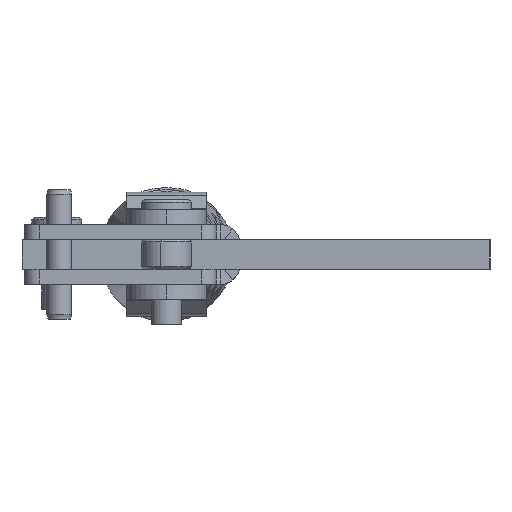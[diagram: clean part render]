
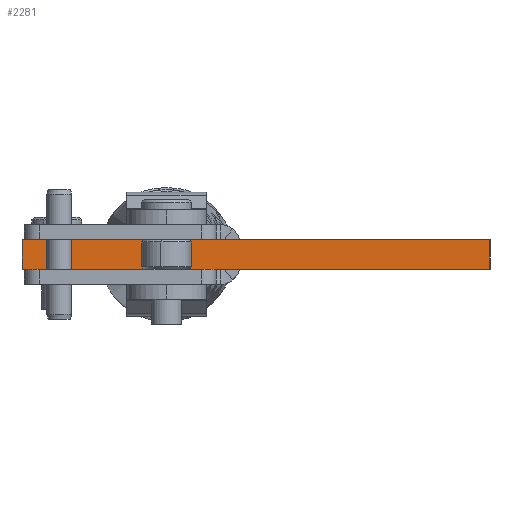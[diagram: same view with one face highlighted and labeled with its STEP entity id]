
A CAD part, front view. The second image highlights one B-rep face of the part: STEP entity #2281.
In plain terms, the highlighted planar face has unit normal (0, -1, 0).
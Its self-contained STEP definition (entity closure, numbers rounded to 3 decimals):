
#1516 = CARTESIAN_POINT ( 'NONE',  ( -7., -7., 6. ) ) ;
#1964 = CARTESIAN_POINT ( 'NONE',  ( 87., -7., 6. ) ) ;
#2239 = VECTOR ( 'NONE', #19784, 1000. ) ;
#2281 = ADVANCED_FACE ( 'Face2', ( #14602 ), #4056, .F. ) ;
#2576 = AXIS2_PLACEMENT_3D ( 'NONE', #1964, #10438, #8904 ) ;
#2858 = CARTESIAN_POINT ( 'NONE',  ( 87., -7., 6. ) ) ;
#3246 = ORIENTED_EDGE ( 'NONE', *, *, #14189, .F. ) ;
#4056 = PLANE ( 'NONE',  #2576 ) ;
#4656 = VERTEX_POINT ( 'NONE', #14997 ) ;
#4822 = EDGE_CURVE ( 'NONE', #9735, #4656, #5942, .T. ) ;
#4827 = CARTESIAN_POINT ( 'NONE',  ( 87., -7., 6. ) ) ;
#5942 = LINE ( 'NONE', #1516, #6385 ) ;
#6073 = ORIENTED_EDGE ( 'NONE', *, *, #9255, .F. ) ;
#6385 = VECTOR ( 'NONE', #14554, 1000. ) ;
#7061 = VECTOR ( 'NONE', #20479, 1000. ) ;
#8101 = EDGE_LOOP ( 'NONE', ( #12827, #6073, #3246, #18162 ) ) ;
#8904 = DIRECTION ( 'NONE',  ( 0., 0., 1. ) ) ;
#9255 = EDGE_CURVE ( 'NONE', #23677, #17725, #21678, .T. ) ;
#9735 = VERTEX_POINT ( 'NONE', #20506 ) ;
#10438 = DIRECTION ( 'NONE',  ( 0., 1., 0. ) ) ;
#11483 = EDGE_CURVE ( 'NONE', #4656, #17725, #20752, .T. ) ;
#11873 = LINE ( 'NONE', #2858, #2239 ) ;
#12827 = ORIENTED_EDGE ( 'NONE', *, *, #11483, .T. ) ;
#14189 = EDGE_CURVE ( 'NONE', #9735, #23677, #11873, .T. ) ;
#14554 = DIRECTION ( 'NONE',  ( 0., 0., -1. ) ) ;
#14602 = FACE_OUTER_BOUND ( 'NONE', #8101, .T. ) ;
#14997 = CARTESIAN_POINT ( 'NONE',  ( -7., -7., 0. ) ) ;
#16848 = DIRECTION ( 'NONE',  ( 0., 0., -1. ) ) ;
#17114 = CARTESIAN_POINT ( 'NONE',  ( 87., -7., 6. ) ) ;
#17209 = VECTOR ( 'NONE', #16848, 1000. ) ;
#17725 = VERTEX_POINT ( 'NONE', #18414 ) ;
#18162 = ORIENTED_EDGE ( 'NONE', *, *, #4822, .T. ) ;
#18414 = CARTESIAN_POINT ( 'NONE',  ( 87., -7., 0. ) ) ;
#19784 = DIRECTION ( 'NONE',  ( 1., 0., 0. ) ) ;
#20342 = CARTESIAN_POINT ( 'NONE',  ( 87., -7., 0. ) ) ;
#20479 = DIRECTION ( 'NONE',  ( 1., 0., 0. ) ) ;
#20506 = CARTESIAN_POINT ( 'NONE',  ( -7., -7., 6. ) ) ;
#20752 = LINE ( 'NONE', #20342, #7061 ) ;
#21678 = LINE ( 'NONE', #17114, #17209 ) ;
#23677 = VERTEX_POINT ( 'NONE', #4827 ) ;
